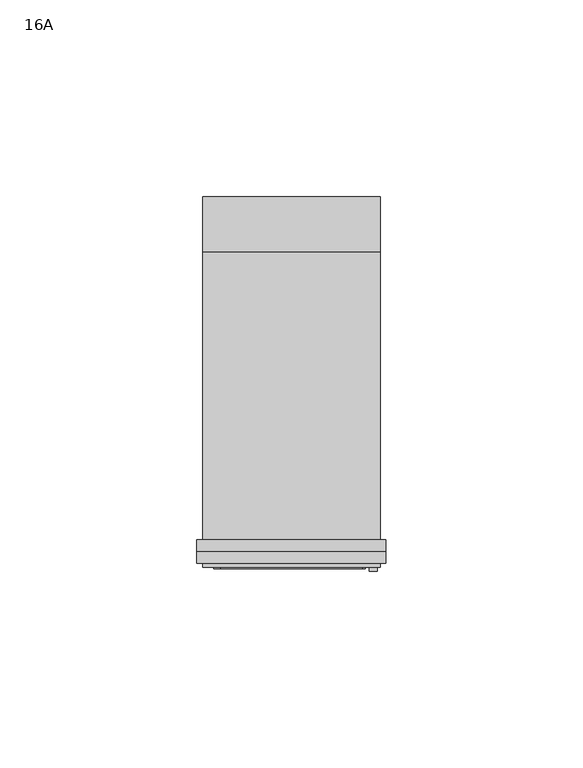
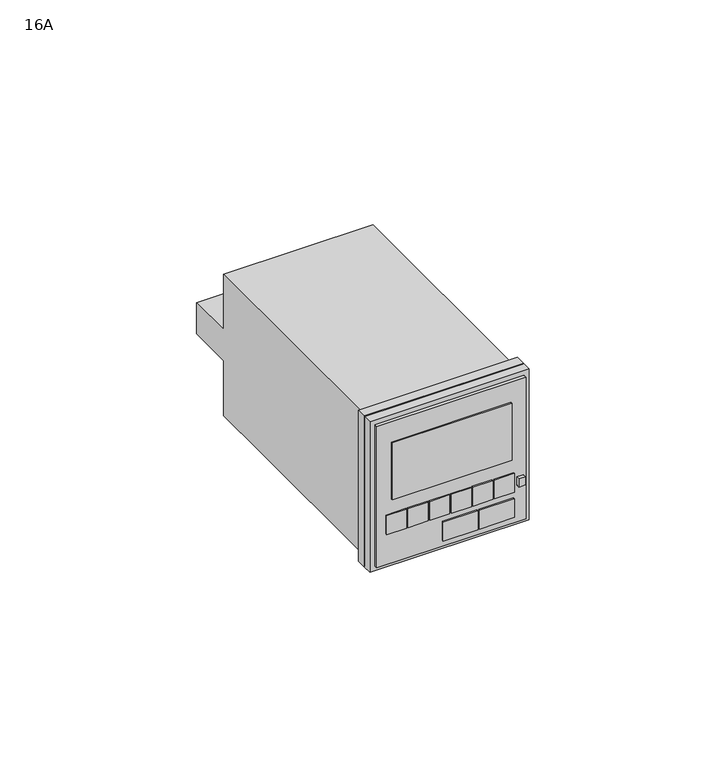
"""IFC4 building model written with IfcOpenShell, lengths in millimetres: proxy geometry, TDM_ЭЛЕКТРОННЫЙ ПРОГРАММИРУЕМЫЙ ТАЙМЕР СЕРИИ ТЭ8 : 16A."""

from ifc_helpers import new_model, si_unit, origin, place, context, project, spatial, faceted_brep, source, transform, mapped, element, save


def proxy_16a_1f5f70fe(model_context):
    return source(origin(), model_context, "Body", "Brep", [
        faceted_brep([(22.5, 36.0, -22.5), (22.5, 36.0, -5.0), (22.5, 50.0, -5.0), (22.5, 50.0, 5.0), (22.5, 36.0, 5.0), (22.5, 36.0, 22.5), (22.5, -37.0, 22.5), (22.5, -37.0, -22.5), (22.5, 17.5, -22.5), (-22.5, 36.0, -22.5), (-22.5, 17.5, -22.5), (-22.5, -37.0, -22.5), (-22.5, -37.0, 22.5), (-22.5, 36.0, 22.5), (-22.5, 36.0, 5.0), (-22.5, 50.0, 5.0), (-22.5, 50.0, -5.0), (-22.5, 36.0, -5.0), (-24.0, -40.0, 24.0), (-24.0, -37.0, 24.0), (-24.0, -37.0, -24.0), (-24.0, -40.0, -24.0), (24.0, -40.0, 24.0), (24.0, -40.0, -24.0), (24.0, -37.0, -24.0), (24.0, -37.0, 24.0)], [[[0, 1, 2, 3, 4, 5, 6, 7, 8]], [[9, 10, 11, 12, 13, 14, 15, 16, 17]], [[18, 19, 20, 21]], [[22, 23, 24, 25]], [[1, 0, 9, 17]], [[6, 5, 13, 12]], [[8, 7, 11, 10]], [[0, 8, 10, 9]], [[2, 1, 17, 16]], [[3, 2, 16, 15]], [[4, 3, 15, 14]], [[5, 4, 14, 13]], [[19, 18, 22, 25]], [[20, 19, 25, 24], [7, 6, 12, 11]], [[21, 20, 24, 23]], [[18, 21, 23, 22]]]),
        faceted_brep([(-24.0, -43.0, 24.0), (-24.0, -40.0, 24.0), (-24.0, -40.0, -24.0), (-24.0, -43.0, -24.0), (24.0, -43.0, 24.0), (24.0, -43.0, -24.0), (24.0, -40.0, -24.0), (24.0, -40.0, 24.0), (-22.5, -43.0, 22.5), (22.5, -43.0, 22.5), (22.5, -43.0, -22.5), (-22.5, -43.0, -22.5), (22.5, -44.0, 22.5), (-22.5, -44.0, 22.5), (-22.5, -44.0, -22.5), (22.5, -44.0, -22.5), (-6.75, -44.0, -12.6110725), (-6.75, -44.0, -6.6110725), (-0.75, -44.0, -6.6110725), (-0.75, -44.0, -12.6110725), (-13.25, -44.0, -12.6110725), (-13.25, -44.0, -6.6110725), (-7.25, -44.0, -6.6110725), (-7.25, -44.0, -12.6110725), (-19.75, -44.0, -12.6110725), (-19.75, -44.0, -6.6110725), (-13.75, -44.0, -6.6110725), (-13.75, -44.0, -12.6110725), (-0.25, -44.0, -6.6110725), (5.75, -44.0, -6.6110725), (5.75, -44.0, -12.6110725), (-0.25, -44.0, -12.6110725), (6.25, -44.0, -6.6110725), (12.25, -44.0, -6.6110725), (12.25, -44.0, -12.6110725), (6.25, -44.0, -12.6110725), (12.75, -44.0, -6.6110725), (18.75, -44.0, -6.6110725), (18.75, -44.0, -12.6110725), (12.75, -44.0, -12.6110725), (8.25, -44.0, -14.6110725), (18.75, -44.0, -14.6110725), (18.75, -44.0, -20.6110725), (8.25, -44.0, -20.6110725), (-2.75, -44.0, -14.6110725), (7.75, -44.0, -14.6110725), (7.75, -44.0, -20.6110725), (-2.75, -44.0, -20.6110725), (-18.0, -44.0, 16.0149518), (18.0, -44.0, 16.0149518), (18.0, -44.0, -2.1537566), (-18.0, -44.0, -2.1537566), (19.767619, -44.0, -10.9113089), (19.767619, -44.0, -8.2708898), (21.7409773, -44.0, -8.2708898), (21.7409773, -44.0, -10.9113089), (-6.75, -44.4011069, -6.6110725), (-6.75, -44.4011069, -12.6110725), (-0.75, -44.4011069, -12.6110725), (-0.75, -44.4011069, -6.6110725), (-13.25, -44.4011069, -6.6110725), (-13.25, -44.4011069, -12.6110725), (-7.25, -44.4011069, -12.6110725), (-7.25, -44.4011069, -6.6110725), (-19.75, -44.4011069, -6.6110725), (-19.75, -44.4011069, -12.6110725), (-13.75, -44.4011069, -12.6110725), (-13.75, -44.4011069, -6.6110725), (5.75, -44.4011069, -6.6110725), (-0.25, -44.4011069, -6.6110725), (-0.25, -44.4011069, -12.6110725), (5.75, -44.4011069, -12.6110725), (12.25, -44.4011069, -6.6110725), (6.25, -44.4011069, -6.6110725), (6.25, -44.4011069, -12.6110725), (12.25, -44.4011069, -12.6110725), (18.75, -44.4011069, -6.6110725), (12.75, -44.4011069, -6.6110725), (12.75, -44.4011069, -12.6110725), (18.75, -44.4011069, -12.6110725), (18.75, -44.4011069, -14.6110725), (8.25, -44.4011069, -14.6110725), (8.25, -44.4011069, -20.6110725), (18.75, -44.4011069, -20.6110725), (7.75, -44.4011069, -14.6110725), (-2.75, -44.4011069, -14.6110725), (-2.75, -44.4011069, -20.6110725), (7.75, -44.4011069, -20.6110725), (18.0, -44.4011069, 16.0149518), (-18.0, -44.4011069, 16.0149518), (-18.0, -44.4011069, -2.1537566), (18.0, -44.4011069, -2.1537566), (19.767619, -45.0, -10.9113089), (19.767619, -45.0, -8.2708898), (21.7409773, -45.0, -8.2708898), (21.7409773, -45.0, -10.9113089)], [[[0, 1, 2, 3]], [[4, 5, 6, 7]], [[1, 0, 4, 7]], [[2, 1, 7, 6]], [[3, 2, 6, 5]], [[0, 3, 5, 4], [8, 9, 10, 11]], [[12, 13, 14, 15], [16, 17, 18, 19], [20, 21, 22, 23], [24, 25, 26, 27], [28, 29, 30, 31], [32, 33, 34, 35], [36, 37, 38, 39], [40, 41, 42, 43], [44, 45, 46, 47], [48, 49, 50, 51], [52, 53, 54, 55]], [[13, 12, 9, 8]], [[14, 13, 8, 11]], [[15, 14, 11, 10]], [[12, 15, 10, 9]], [[56, 57, 58, 59]], [[60, 61, 62, 63]], [[64, 65, 66, 67]], [[68, 69, 70, 71]], [[72, 73, 74, 75]], [[76, 77, 78, 79]], [[80, 81, 82, 83]], [[84, 85, 86, 87]], [[88, 89, 90, 91]], [[57, 56, 17, 16]], [[58, 57, 16, 19]], [[59, 58, 19, 18]], [[56, 59, 18, 17]], [[61, 60, 21, 20]], [[62, 61, 20, 23]], [[63, 62, 23, 22]], [[60, 63, 22, 21]], [[65, 64, 25, 24]], [[66, 65, 24, 27]], [[67, 66, 27, 26]], [[64, 67, 26, 25]], [[69, 68, 29, 28]], [[70, 69, 28, 31]], [[71, 70, 31, 30]], [[68, 71, 30, 29]], [[73, 72, 33, 32]], [[74, 73, 32, 35]], [[75, 74, 35, 34]], [[72, 75, 34, 33]], [[77, 76, 37, 36]], [[78, 77, 36, 39]], [[79, 78, 39, 38]], [[76, 79, 38, 37]], [[81, 80, 41, 40]], [[82, 81, 40, 43]], [[83, 82, 43, 42]], [[80, 83, 42, 41]], [[85, 84, 45, 44]], [[86, 85, 44, 47]], [[87, 86, 47, 46]], [[84, 87, 46, 45]], [[89, 88, 49, 48]], [[90, 89, 48, 51]], [[91, 90, 51, 50]], [[88, 91, 50, 49]], [[92, 93, 53, 52]], [[94, 95, 55, 54]], [[93, 94, 54, 53]], [[95, 92, 52, 55]], [[93, 92, 95, 94]]]),
    ])


if __name__ == "__main__":
    model = new_model("IFC4")
    model_context = context("Model", 3, world=origin())
    ifc_project = project(units=[si_unit("LENGTHUNIT", "METRE", prefix="MILLI")], contexts=[model_context])
    site = spatial("IfcSite", under=ifc_project)
    building = spatial("IfcBuilding", under=site)
    placement = place(None, origin())
    proxy_16a_shape = proxy_16a_1f5f70fe(model_context)
    element("IfcBuildingElementProxy", 1, Name="TDM_ЭЛЕКТРОННЫЙ ПРОГРАММИРУЕМЫЙ ТАЙМЕР СЕРИИ ТЭ8 : 16A", ObjectType="TDM_ЭЛЕКТРОННЫЙ ПРОГРАММИРУЕМЫЙ ТАЙМЕР СЕРИИ ТЭ8 : 16A", at=placement, inside=building, context=model_context, shape_type="MappedRepresentation", body=[
        mapped(proxy_16a_shape, transform((0.0, 0.0, 0.0), x_axis=(1.0, 0.0, 0.0), y_axis=(0.0, 1.0, 0.0), z_axis=(0.0, 0.0, 1.0))),
    ])
    save(model, "model.ifc")
